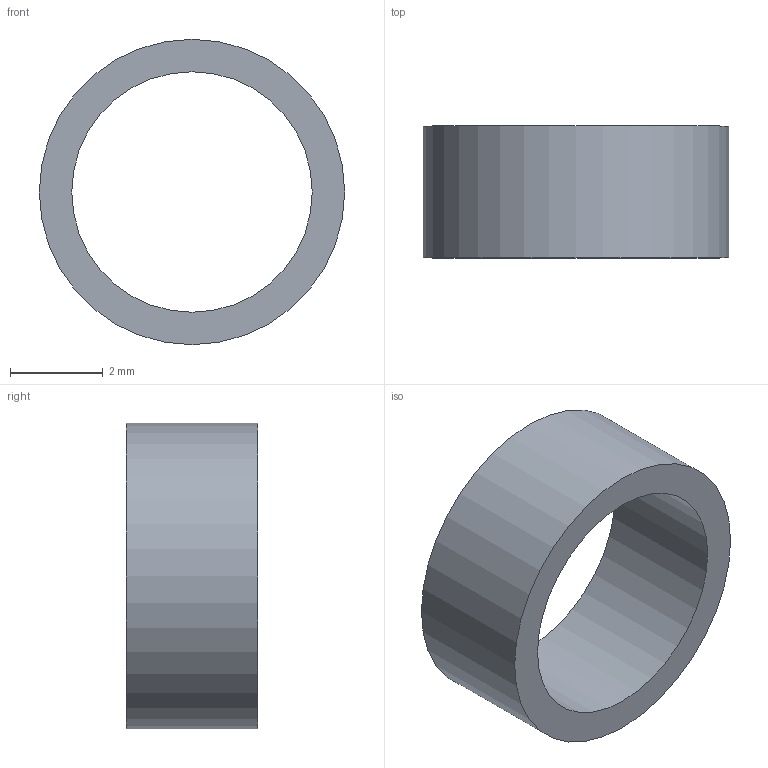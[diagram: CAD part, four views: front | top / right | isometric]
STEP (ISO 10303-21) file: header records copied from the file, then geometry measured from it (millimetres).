
FILE_DESCRIPTION(('Open CASCADE Model'),'2;1');
FILE_NAME('S04-root_right_spacer.step', '', ('Noah Wilson'), (''), '', '', '');
FILE_SCHEMA(('AUTOMOTIVE_DESIGN { 1 0 10303 214 1 1 1 1 }'));
Length unit declared in the file: millimetre
Products named in the file (2): =>[0:1:1:2]; COMPOUND
Assembly tree (1 placements, depth 2):
  =>[0:1:1:2]
    COMPOUND
Bounding box: 6.6 x 2.85 x 6.6 mm (x, y, z)
Volume: 37 mm3; surface area: 131.6 mm2
Topology: 1 solids, 1 shells, 4 faces, 6 edges, 4 vertices
Faces by surface type: cylinder 2, plane 2
Full cylindrical faces by diameter (mm): 5.2 x1, 6.6 x1
Entity records: 204 total; most frequent: DIRECTION 34, CARTESIAN_POINT 28, ORIENTED_EDGE 12, PCURVE 12, DEFINITIONAL_REPRESENTATION 12, AXIS2_PLACEMENT_3D 10, LINE 10, VECTOR 10
